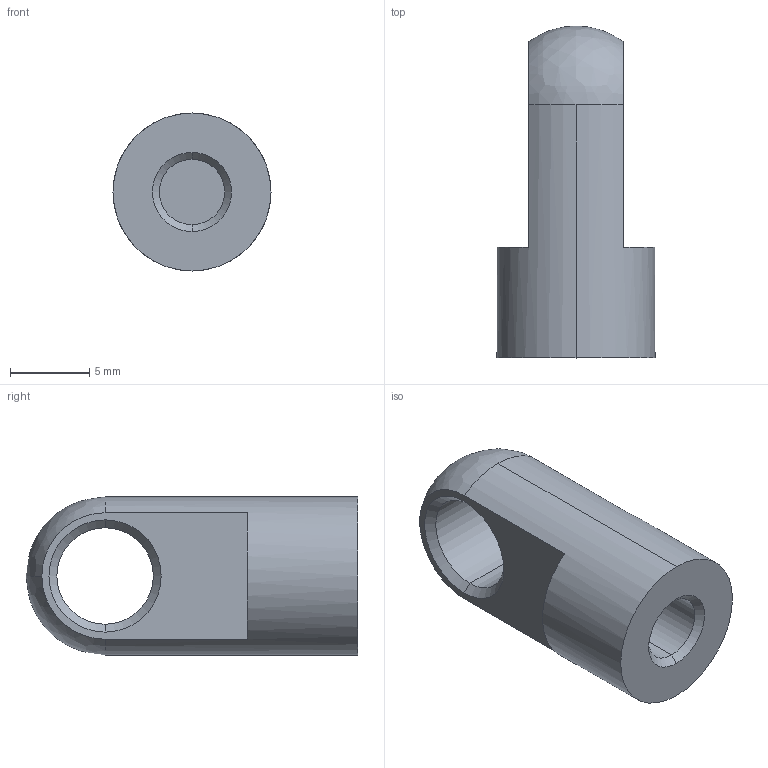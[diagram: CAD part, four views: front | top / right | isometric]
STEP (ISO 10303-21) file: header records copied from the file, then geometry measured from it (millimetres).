
FILE_DESCRIPTION (( 'STEP AP214' ), '1' );
FILE_NAME ('18.05A1.STEP', '2017-11-09T12:15:26', ( '' ), ( '' ), 'SwSTEP 2.0', 'SolidWorks 2016', '' );
FILE_SCHEMA (( 'AUTOMOTIVE_DESIGN' ));
Length unit declared in the file: millimetre
Products named in the file (1): 18.05A1
Bounding box: 10 x 21 x 10 mm (x, y, z)
Volume: 973.6 mm3; surface area: 872 mm2
Topology: 1 solids, 1 shells, 20 faces, 45 edges, 28 vertices
Faces by surface type: cylinder 6, cone 6, plane 6, bspline 2
Entity records: 628 total; most frequent: CARTESIAN_POINT 124, DIRECTION 110, ORIENTED_EDGE 90, AXIS2_PLACEMENT_3D 46, EDGE_CURVE 45, VERTEX_POINT 28, CIRCLE 27, EDGE_LOOP 23
